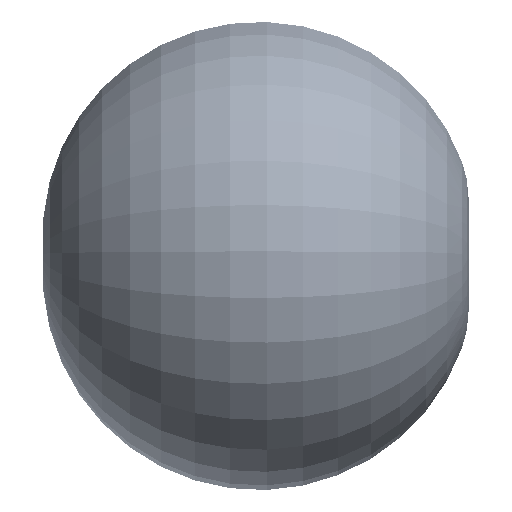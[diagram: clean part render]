
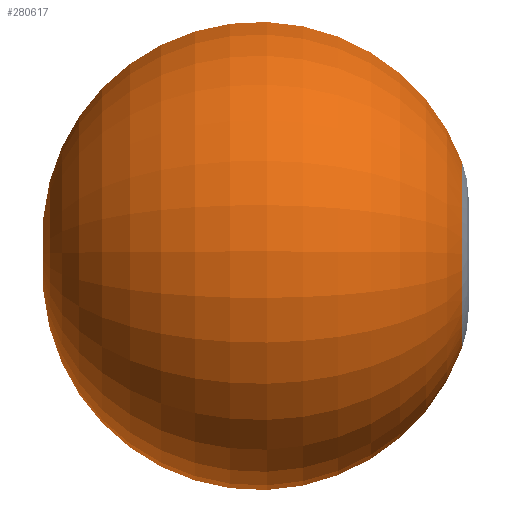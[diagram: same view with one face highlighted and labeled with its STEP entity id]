
A CAD part, left-side view. The second image highlights one B-rep face of the part: STEP entity #280617.
In plain terms, the highlighted toroidal (fillet/blend) face has major radius 155 mm and minor radius 1694.79 mm.
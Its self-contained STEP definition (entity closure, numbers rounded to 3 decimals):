
#22646 = DIRECTION ( 'NONE',  ( 0., -1., 0. ) ) ;
#31030 = ORIENTED_EDGE ( 'NONE', *, *, #229797, .T. ) ;
#38743 = EDGE_CURVE ( 'NONE', #345440, #276601, #356975, .T. ) ;
#53387 = CARTESIAN_POINT ( 'NONE',  ( -127.572, -1108.98, 723.495 ) ) ;
#77251 = DIRECTION ( 'NONE',  ( 0., -1., 0. ) ) ;
#129320 = AXIS2_PLACEMENT_3D ( 'NONE', #374240, #77251, #147755 ) ;
#129793 = ORIENTED_EDGE ( 'NONE', *, *, #273570, .T. ) ;
#131074 = EDGE_CURVE ( 'NONE', #345440, #406725, #156284, .T. ) ;
#147755 = DIRECTION ( 'NONE',  ( 0., 0., -1. ) ) ;
#156284 = CIRCLE ( 'NONE', #284876, 734.657 ) ;
#169517 = DIRECTION ( 'NONE',  ( -0.174, 0., 0.985 ) ) ;
#215548 = CARTESIAN_POINT ( 'NONE',  ( -1.736, 2172.176, 9.848 ) ) ;
#217672 = AXIS2_PLACEMENT_3D ( 'NONE', #270935, #275885, #348862 ) ;
#223858 = CIRCLE ( 'NONE', #296013, 10. ) ;
#229797 = EDGE_CURVE ( 'NONE', #484153, #406725, #466882, .T. ) ;
#236660 = CARTESIAN_POINT ( 'NONE',  ( 0., 2172.176, -10. ) ) ;
#238454 = EDGE_LOOP ( 'NONE', ( #129793, #31030, #310160, #310891 ) ) ;
#249975 = CARTESIAN_POINT ( 'NONE',  ( -26.915, 483.6, 152.645 ) ) ;
#270935 = CARTESIAN_POINT ( 'NONE',  ( 0., 483.6, -155. ) ) ;
#273570 = EDGE_CURVE ( 'NONE', #276601, #484153, #223858, .T. ) ;
#275088 = DIRECTION ( 'NONE',  ( 0., -1., 0. ) ) ;
#275885 = DIRECTION ( 'NONE',  ( -1., 0., 0. ) ) ;
#276601 = VERTEX_POINT ( 'NONE', #215548 ) ;
#280617 = ADVANCED_FACE ( 'NONE', ( #459625 ), #346200, .T. ) ;
#284876 = AXIS2_PLACEMENT_3D ( 'NONE', #478075, #22646, #364822 ) ;
#296013 = AXIS2_PLACEMENT_3D ( 'NONE', #416790, #275088, #322739 ) ;
#310160 = ORIENTED_EDGE ( 'NONE', *, *, #131074, .F. ) ;
#310891 = ORIENTED_EDGE ( 'NONE', *, *, #38743, .T. ) ;
#322739 = DIRECTION ( 'NONE',  ( 0., 0., -1. ) ) ;
#345440 = VERTEX_POINT ( 'NONE', #53387 ) ;
#346200 = TOROIDAL_SURFACE ( 'NONE', #129320, 155., 1694.79 ) ;
#348862 = DIRECTION ( 'NONE',  ( 0., 0., 1. ) ) ;
#356975 = CIRCLE ( 'NONE', #413006, 1694.79 ) ;
#364822 = DIRECTION ( 'NONE',  ( 0., 0., -1. ) ) ;
#374240 = CARTESIAN_POINT ( 'NONE',  ( 0., 483.6, 0. ) ) ;
#400923 = DIRECTION ( 'NONE',  ( -0.985, 0., -0.174 ) ) ;
#406725 = VERTEX_POINT ( 'NONE', #472688 ) ;
#413006 = AXIS2_PLACEMENT_3D ( 'NONE', #249975, #400923, #169517 ) ;
#416790 = CARTESIAN_POINT ( 'NONE',  ( 0., 2172.176, 0. ) ) ;
#459625 = FACE_OUTER_BOUND ( 'NONE', #238454, .T. ) ;
#466882 = CIRCLE ( 'NONE', #217672, 1694.79 ) ;
#472688 = CARTESIAN_POINT ( 'NONE',  ( 0., -1108.98, -734.657 ) ) ;
#478075 = CARTESIAN_POINT ( 'NONE',  ( 0., -1108.98, 0. ) ) ;
#484153 = VERTEX_POINT ( 'NONE', #236660 ) ;
